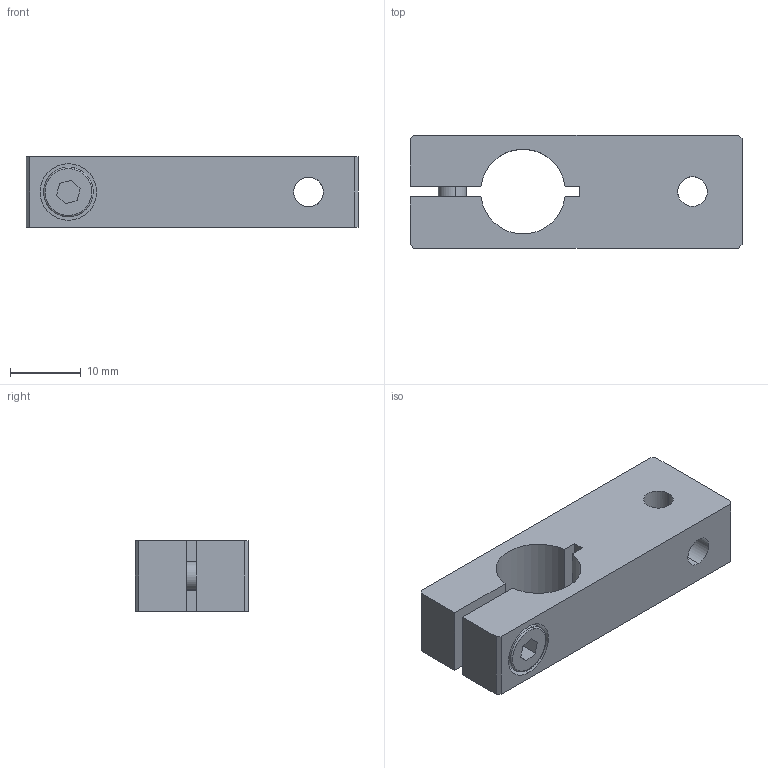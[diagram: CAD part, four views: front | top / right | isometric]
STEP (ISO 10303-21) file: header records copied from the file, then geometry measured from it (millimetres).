
FILE_DESCRIPTION (( 'STEP AP214' ), '1' );
FILE_NAME ('SMBG1-12M5T.STEP', '2022-12-29T06:46:29', ( 'Windows User' ), ( 'P R C' ), 'SwSTEP 2.0', 'SolidWorks 2018', '' );
FILE_SCHEMA (( 'AUTOMOTIVE_DESIGN' ));
Length unit declared in the file: millimetre
Products named in the file (1): SMBG1-12M5T
Bounding box: 47 x 16.1 x 10 mm (x, y, z)
Volume: 5750.8 mm3; surface area: 3848.2 mm2
Topology: 3 solids, 3 shells, 247 faces, 707 edges, 465 vertices
Faces by surface type: plane 219, cylinder 24, cone 2, bspline 2
Entity records: 10996 total; most frequent: CARTESIAN_POINT 1568, DIRECTION 1414, ORIENTED_EDGE 1414, EDGE_CURVE 707, AXIS2_PLACEMENT_3D 472, LINE 470, VECTOR 470, VERTEX_POINT 465
